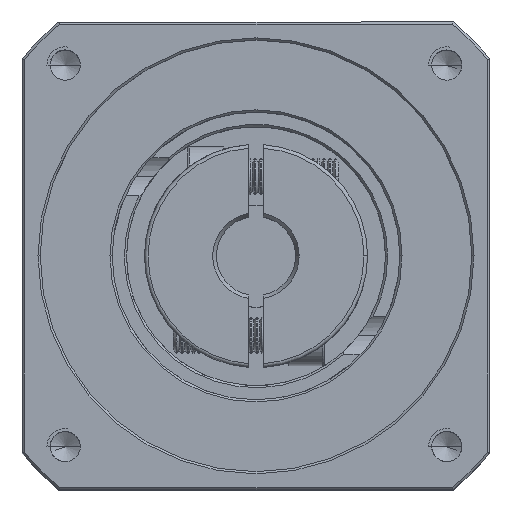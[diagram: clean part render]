
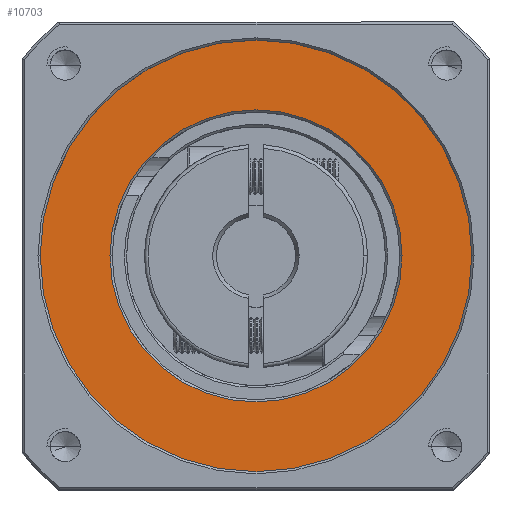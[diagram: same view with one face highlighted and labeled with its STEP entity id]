
A CAD part, top view. The second image highlights one B-rep face of the part: STEP entity #10703.
In plain terms, the highlighted planar face has unit normal (0, 0, 1).
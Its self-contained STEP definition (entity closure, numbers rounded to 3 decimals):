
#15 = FACE_OUTER_BOUND ( 'NONE', #91520, .T. ) ;
#6368 = CIRCLE ( 'NONE', #47526, 30. ) ;
#8237 = DIRECTION ( 'NONE',  ( 0., 0., -1. ) ) ;
#9472 = EDGE_CURVE ( 'NONE', #96985, #29142, #43508, .T. ) ;
#10703 = ADVANCED_FACE ( 'NONE', ( #49684, #15 ), #57075, .T. ) ;
#12609 = AXIS2_PLACEMENT_3D ( 'NONE', #21124, #14136, #23519 ) ;
#14136 = DIRECTION ( 'NONE',  ( 0., 0., -1. ) ) ;
#14508 = VERTEX_POINT ( 'NONE', #93882 ) ;
#15506 = CARTESIAN_POINT ( 'NONE',  ( -61.9, 23.265, 17.333 ) ) ;
#19339 = AXIS2_PLACEMENT_3D ( 'NONE', #88905, #8237, #63663 ) ;
#21124 = CARTESIAN_POINT ( 'NONE',  ( -61.9, 23.265, 17.333 ) ) ;
#23519 = DIRECTION ( 'NONE',  ( 1., 0., 0. ) ) ;
#23541 = DIRECTION ( 'NONE',  ( 0., 0., 1. ) ) ;
#24019 = DIRECTION ( 'NONE',  ( 0., 0., 1. ) ) ;
#24256 = AXIS2_PLACEMENT_3D ( 'NONE', #65743, #26303, #48446 ) ;
#25890 = ORIENTED_EDGE ( 'NONE', *, *, #92775, .T. ) ;
#26303 = DIRECTION ( 'NONE',  ( 0., 0., 1. ) ) ;
#29142 = VERTEX_POINT ( 'NONE', #59554 ) ;
#34359 = ORIENTED_EDGE ( 'NONE', *, *, #9472, .T. ) ;
#38731 = DIRECTION ( 'NONE',  ( 1., 0., 0. ) ) ;
#40187 = DIRECTION ( 'NONE',  ( 1., 0., 0. ) ) ;
#42135 = CIRCLE ( 'NONE', #85888, 30. ) ;
#43508 = CIRCLE ( 'NONE', #12609, 20.3 ) ;
#47308 = CIRCLE ( 'NONE', #19339, 20.3 ) ;
#47526 = AXIS2_PLACEMENT_3D ( 'NONE', #63462, #24019, #40187 ) ;
#48446 = DIRECTION ( 'NONE',  ( 1., 0., 0. ) ) ;
#49067 = EDGE_CURVE ( 'NONE', #89623, #14508, #42135, .T. ) ;
#49684 = FACE_BOUND ( 'NONE', #75462, .T. ) ;
#50355 = CARTESIAN_POINT ( 'NONE',  ( -82.2, 23.265, 17.333 ) ) ;
#56670 = ORIENTED_EDGE ( 'NONE', *, *, #101617, .T. ) ;
#57075 = PLANE ( 'NONE',  #24256 ) ;
#59554 = CARTESIAN_POINT ( 'NONE',  ( -41.6, 23.265, 17.333 ) ) ;
#63462 = CARTESIAN_POINT ( 'NONE',  ( -61.9, 23.265, 17.333 ) ) ;
#63663 = DIRECTION ( 'NONE',  ( 1., 0., 0. ) ) ;
#65743 = CARTESIAN_POINT ( 'NONE',  ( -61.9, 23.265, 17.333 ) ) ;
#75462 = EDGE_LOOP ( 'NONE', ( #25890, #34359 ) ) ;
#76827 = CARTESIAN_POINT ( 'NONE',  ( -31.9, 23.265, 17.333 ) ) ;
#85888 = AXIS2_PLACEMENT_3D ( 'NONE', #15506, #23541, #38731 ) ;
#88905 = CARTESIAN_POINT ( 'NONE',  ( -61.9, 23.265, 17.333 ) ) ;
#89623 = VERTEX_POINT ( 'NONE', #76827 ) ;
#89887 = ORIENTED_EDGE ( 'NONE', *, *, #49067, .T. ) ;
#91520 = EDGE_LOOP ( 'NONE', ( #89887, #56670 ) ) ;
#92775 = EDGE_CURVE ( 'NONE', #29142, #96985, #47308, .T. ) ;
#93882 = CARTESIAN_POINT ( 'NONE',  ( -91.9, 23.265, 17.333 ) ) ;
#96985 = VERTEX_POINT ( 'NONE', #50355 ) ;
#101617 = EDGE_CURVE ( 'NONE', #14508, #89623, #6368, .T. ) ;
